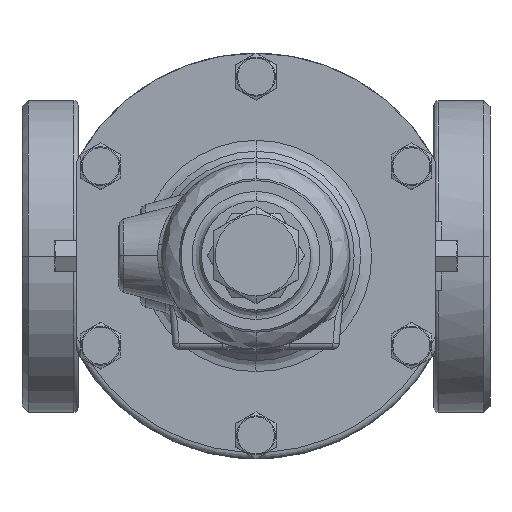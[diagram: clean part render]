
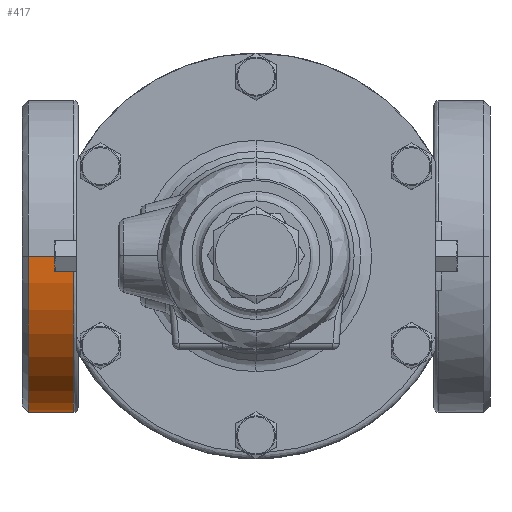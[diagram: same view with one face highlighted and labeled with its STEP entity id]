
A CAD part, top view. The second image highlights one B-rep face of the part: STEP entity #417.
In plain terms, the highlighted cylindrical face has radius 50 mm (diameter 100 mm), a partial arc.
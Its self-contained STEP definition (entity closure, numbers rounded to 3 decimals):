
#417=ADVANCED_FACE('',(#3351),#3350,.T.);
#3350=CYLINDRICAL_SURFACE('',#14651,50.);
#3351=FACE_OUTER_BOUND('',#14652,.T.);
#14648=CARTESIAN_POINT('',(0.,0.,0.));
#14649=DIRECTION('',(1.,0.,0.));
#14650=DIRECTION('',(0.,0.,-1.));
#14651=AXIS2_PLACEMENT_3D('',#14648,#14649,#14650);
#14652=EDGE_LOOP('',(#18919,#18920,#18921,#18922));
#18919=ORIENTED_EDGE('',*,*,#20705,.F.);
#18920=ORIENTED_EDGE('',*,*,#20709,.T.);
#18921=ORIENTED_EDGE('',*,*,#20677,.T.);
#18922=ORIENTED_EDGE('',*,*,#20710,.F.);
#20677=EDGE_CURVE('',#25760,#25761,#25762,.T.);
#20705=EDGE_CURVE('',#25932,#25933,#25934,.T.);
#20709=EDGE_CURVE('',#25932,#25760,#25958,.T.);
#20710=EDGE_CURVE('',#25933,#25761,#25964,.T.);
#25760=VERTEX_POINT('',#34815);
#25761=VERTEX_POINT('',#34816);
#25762=CIRCLE('',#34820,50.);
#25932=VERTEX_POINT('',#34885);
#25933=VERTEX_POINT('',#34886);
#25934=CIRCLE('',#34890,50.);
#25958=(BOUNDED_CURVE() B_SPLINE_CURVE(1,(#34899,#34900),.UNSPECIFIED.,.F.,.F.) B_SPLINE_CURVE_WITH_KNOTS((2,2),(0.083,0.917),.UNSPECIFIED.) CURVE() GEOMETRIC_REPRESENTATION_ITEM() RATIONAL_B_SPLINE_CURVE((1.,1.)) REPRESENTATION_ITEM('') );
#25964=(BOUNDED_CURVE() B_SPLINE_CURVE(1,(#34901,#34902),.UNSPECIFIED.,.F.,.F.) B_SPLINE_CURVE_WITH_KNOTS((2,2),(0.083,0.917),.UNSPECIFIED.) CURVE() GEOMETRIC_REPRESENTATION_ITEM() RATIONAL_B_SPLINE_CURVE((0.75,0.75)) REPRESENTATION_ITEM('') );
#34815=CARTESIAN_POINT('',(-58.5,0.,-50.));
#34816=CARTESIAN_POINT('',(-58.5,0.,50.));
#34817=CARTESIAN_POINT('',(-58.5,0.,0.));
#34818=DIRECTION('',(-1.,0.,0.));
#34819=DIRECTION('',(0.,0.,1.));
#34820=AXIS2_PLACEMENT_3D('',#34817,#34818,#34819);
#34885=CARTESIAN_POINT('',(-73.,0.,-50.));
#34886=CARTESIAN_POINT('',(-73.,0.,50.));
#34887=CARTESIAN_POINT('',(-73.,0.,0.));
#34888=DIRECTION('',(-1.,0.,0.));
#34889=DIRECTION('',(0.,0.,1.));
#34890=AXIS2_PLACEMENT_3D('',#34887,#34888,#34889);
#34899=CARTESIAN_POINT('',(-73.,0.,-50.));
#34900=CARTESIAN_POINT('',(-58.5,0.,-50.));
#34901=CARTESIAN_POINT('',(-73.,0.,50.));
#34902=CARTESIAN_POINT('',(-58.5,0.,50.));
